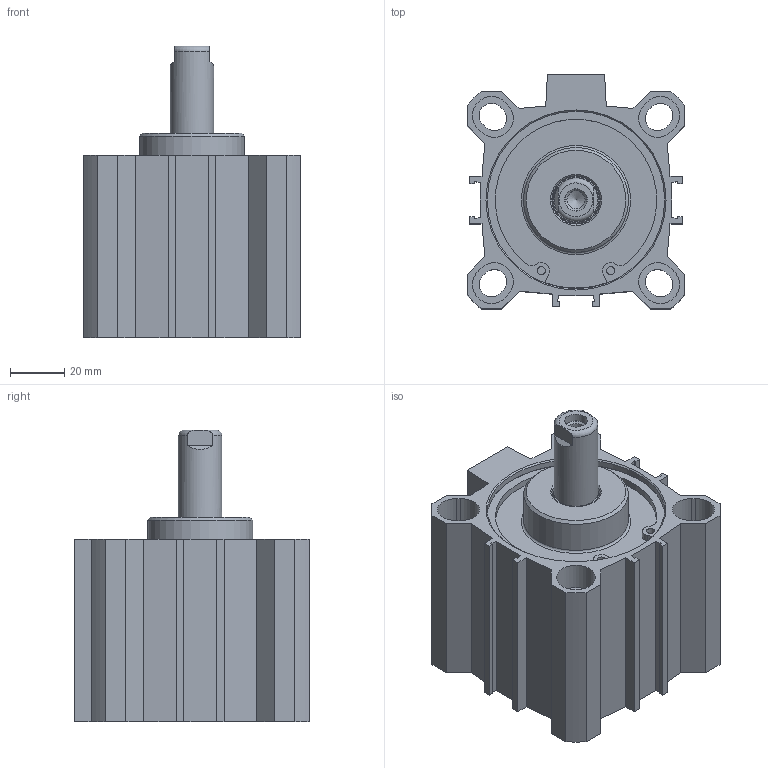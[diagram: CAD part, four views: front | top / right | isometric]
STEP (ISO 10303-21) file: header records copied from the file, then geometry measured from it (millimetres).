
FILE_DESCRIPTION(/* description */ ('Unknown'),/* implementation_level */ '2;1');
FILE_NAME(/* name */ 'FENV 63_25',/* time_stamp */ '2026-05-12T07:32:27+02:00',/* author */ ('Unknown'),/* organization */ ('Unknown'),/* preprocessor_version */ 'ST-DEVELOPER v18.102',/* originating_system */ 'Solid Edge',/* authorisation */ 'Unknown');
FILE_SCHEMA (('AUTOMOTIVE_DESIGN {1 0 10303 214 3 1 1}'));
Length unit declared in the file: millimetre
Products named in the file (5): FENV 63_25; Kit_1; Profilrohr; Kit_2; Kolbenstange
Assembly tree (4 placements, depth 2):
  FENV 63_25
    Kit_1
    Profilrohr
    Kit_2
    Kolbenstange
Bounding box: 80 x 86 x 107 mm (x, y, z)
Volume: 258068.3 mm3; surface area: 90830.4 mm2
Topology: 4 solids, 5 shells, 240 faces, 587 edges, 378 vertices
Faces by surface type: plane 131, cylinder 72, cone 27, torus 10
Full cylindrical faces by diameter (mm): 3 x4, 3.2 x2, 6.647 x2, 8.25 x1, 8.566 x4, 16 x2, 16.54 x1, 17.7 x1, 18 x1, 20.32 x1, 20.5 x1, 38.5 x1, 47 x1, 63 x2, 64.7 x4, 65.1 x2, 68.2 x2
Entity records: 8524 total; most frequent: CARTESIAN_POINT 1272, DIRECTION 1164, ORIENTED_EDGE 1012, EDGE_CURVE 506, AXIS2_PLACEMENT_3D 423, VERTEX_POINT 365, FACE_BOUND 347, EDGE_LOOP 346
